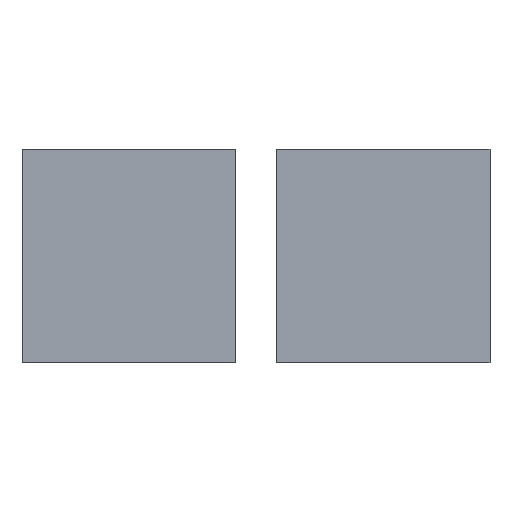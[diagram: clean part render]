
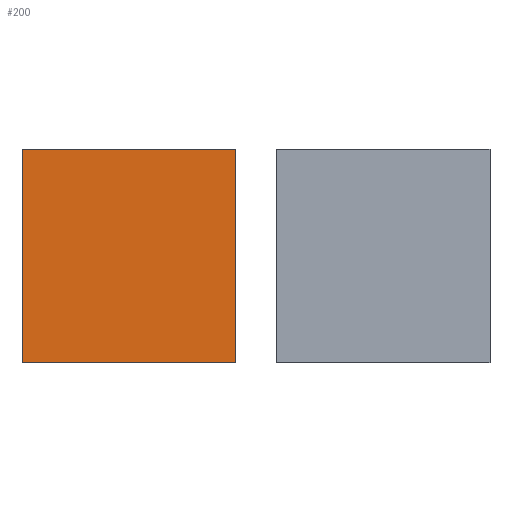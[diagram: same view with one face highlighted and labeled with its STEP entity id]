
A CAD part, front view. The second image highlights one B-rep face of the part: STEP entity #200.
In plain terms, the highlighted planar face has unit normal (0, -1, 0).
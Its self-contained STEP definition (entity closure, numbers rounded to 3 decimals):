
#1 = EDGE_CURVE ( 'NONE', #99, #173, #188, .T. ) ;
#6 = VECTOR ( 'NONE', #210, 1000. ) ;
#16 = CARTESIAN_POINT ( 'NONE',  ( -21., -0.5, 21. ) ) ;
#32 = CARTESIAN_POINT ( 'NONE',  ( -21., -0.5, -21. ) ) ;
#41 = VERTEX_POINT ( 'NONE', #32 ) ;
#49 = ORIENTED_EDGE ( 'NONE', *, *, #187, .F. ) ;
#50 = DIRECTION ( 'NONE',  ( 0., 0., 1. ) ) ;
#67 = FACE_OUTER_BOUND ( 'NONE', #140, .T. ) ;
#73 = DIRECTION ( 'NONE',  ( -1., 0., 0. ) ) ;
#75 = ORIENTED_EDGE ( 'NONE', *, *, #1, .F. ) ;
#76 = EDGE_CURVE ( 'NONE', #215, #99, #162, .T. ) ;
#86 = CARTESIAN_POINT ( 'NONE',  ( 0., -0.5, 0. ) ) ;
#87 = VECTOR ( 'NONE', #73, 1000. ) ;
#91 = LINE ( 'NONE', #225, #87 ) ;
#99 = VERTEX_POINT ( 'NONE', #157 ) ;
#100 = CARTESIAN_POINT ( 'NONE',  ( -21., -0.5, -21. ) ) ;
#104 = CARTESIAN_POINT ( 'NONE',  ( 21., -0.5, -21. ) ) ;
#105 = CARTESIAN_POINT ( 'NONE',  ( -21., -0.5, 21. ) ) ;
#140 = EDGE_LOOP ( 'NONE', ( #49, #238, #75, #159 ) ) ;
#148 = DIRECTION ( 'NONE',  ( 0., 1., 0. ) ) ;
#157 = CARTESIAN_POINT ( 'NONE',  ( 21., -0.5, 21. ) ) ;
#159 = ORIENTED_EDGE ( 'NONE', *, *, #76, .F. ) ;
#162 = LINE ( 'NONE', #105, #6 ) ;
#172 = DIRECTION ( 'NONE',  ( 0., 0., 1. ) ) ;
#173 = VERTEX_POINT ( 'NONE', #193 ) ;
#187 = EDGE_CURVE ( 'NONE', #41, #215, #189, .T. ) ;
#188 = LINE ( 'NONE', #104, #201 ) ;
#189 = LINE ( 'NONE', #100, #232 ) ;
#193 = CARTESIAN_POINT ( 'NONE',  ( 21., -0.5, -21. ) ) ;
#200 = ADVANCED_FACE ( 'NONE', ( #67 ), #237, .F. ) ;
#201 = VECTOR ( 'NONE', #236, 1000. ) ;
#210 = DIRECTION ( 'NONE',  ( 1., 0., 0. ) ) ;
#215 = VERTEX_POINT ( 'NONE', #16 ) ;
#223 = AXIS2_PLACEMENT_3D ( 'NONE', #86, #148, #172 ) ;
#225 = CARTESIAN_POINT ( 'NONE',  ( -21., -0.5, -21. ) ) ;
#232 = VECTOR ( 'NONE', #50, 1000. ) ;
#236 = DIRECTION ( 'NONE',  ( 0., 0., -1. ) ) ;
#237 = PLANE ( 'NONE',  #223 ) ;
#238 = ORIENTED_EDGE ( 'NONE', *, *, #243, .F. ) ;
#243 = EDGE_CURVE ( 'NONE', #173, #41, #91, .T. ) ;
